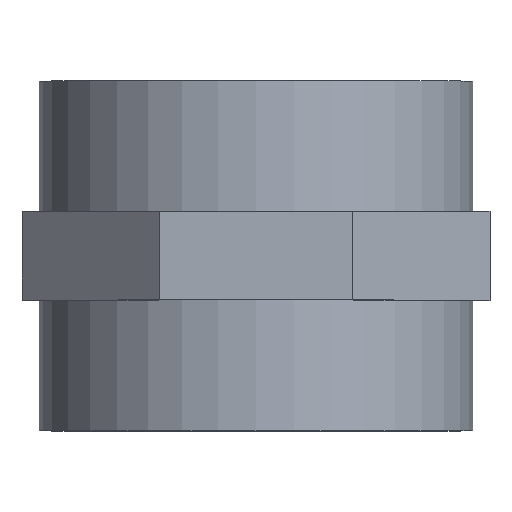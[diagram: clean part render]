
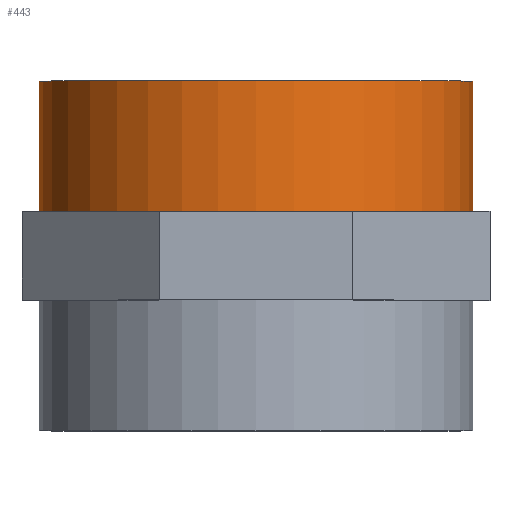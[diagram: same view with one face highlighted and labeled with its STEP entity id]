
A CAD part, top view. The second image highlights one B-rep face of the part: STEP entity #443.
In plain terms, the highlighted cylindrical face has radius 44 mm (diameter 88 mm), a full revolution.
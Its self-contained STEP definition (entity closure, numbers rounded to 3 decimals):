
#74=CYLINDRICAL_SURFACE('',#466,44.);
#81=FACE_BOUND('',#147,.T.);
#88=CIRCLE('',#457,44.);
#89=CIRCLE('',#467,44.);
#114=FACE_OUTER_BOUND('',#146,.T.);
#146=EDGE_LOOP('',(#390));
#147=EDGE_LOOP('',(#391));
#223=VERTEX_POINT('',#11038);
#224=VERTEX_POINT('',#11057);
#275=EDGE_CURVE('',#223,#223,#88,.T.);
#284=EDGE_CURVE('',#224,#224,#89,.T.);
#390=ORIENTED_EDGE('',*,*,#284,.F.);
#391=ORIENTED_EDGE('',*,*,#275,.T.);
#443=ADVANCED_FACE('',(#114,#81),#74,.T.);
#457=AXIS2_PLACEMENT_3D('',#11039,#506,#507);
#466=AXIS2_PLACEMENT_3D('',#11056,#532,#533);
#467=AXIS2_PLACEMENT_3D('',#11058,#534,#535);
#506=DIRECTION('center_axis',(0.,1.,0.));
#507=DIRECTION('ref_axis',(1.,0.,0.));
#532=DIRECTION('center_axis',(0.,1.,0.));
#533=DIRECTION('ref_axis',(1.,0.,0.));
#534=DIRECTION('center_axis',(0.,1.,0.));
#535=DIRECTION('ref_axis',(1.,0.,0.));
#11038=CARTESIAN_POINT('',(-44.,9.,0.));
#11039=CARTESIAN_POINT('Origin',(0.,9.,0.));
#11056=CARTESIAN_POINT('Origin',(0.,0.,0.));
#11057=CARTESIAN_POINT('',(-44.,35.5,0.));
#11058=CARTESIAN_POINT('Origin',(0.,35.5,0.));
